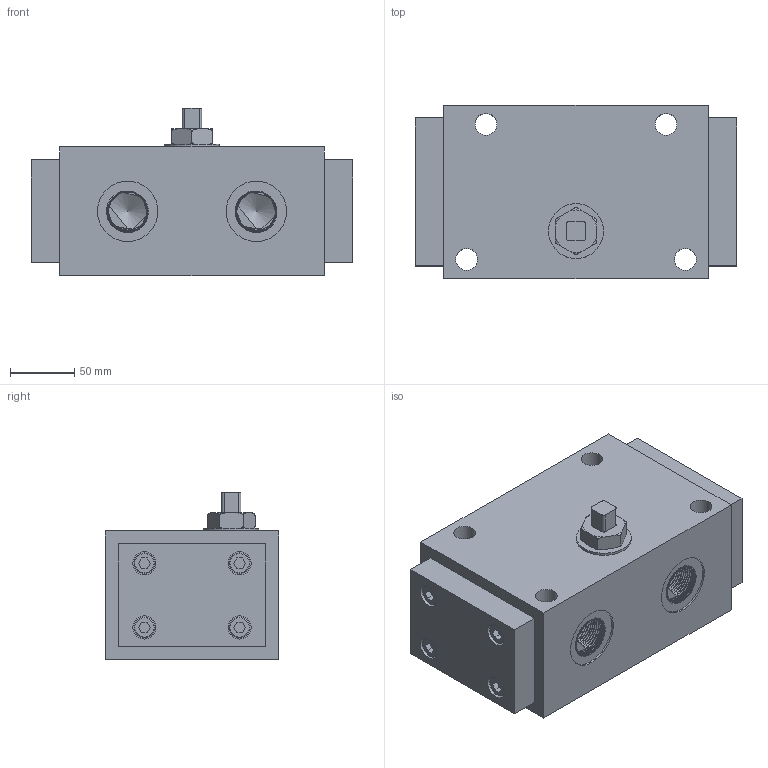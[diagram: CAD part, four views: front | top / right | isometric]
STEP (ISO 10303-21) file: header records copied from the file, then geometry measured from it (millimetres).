
FILE_DESCRIPTION(/* description */ (''),/* implementation_level */ '2;1');
FILE_NAME(/* name */ '25.stp',/* time_stamp */ '2023-05-01T20:42:57+08:00',/* author */ (''),/* organization */ (''),/* preprocessor_version */ 'ST-DEVELOPER v16.7',/* originating_system */ 'SIEMENS PLM Software NX 12.0',/* authorisation */ '');
FILE_SCHEMA (('AUTOMOTIVE_DESIGN { 1 0 10303 214 3 1 1 1 }'));
Length unit declared in the file: millimetre
Products named in the file (1): 25
Bounding box: 250 x 135 x 130 mm (x, y, z)
Volume: 2964190.9 mm3; surface area: 260223.6 mm2
Topology: 14 solids, 14 shells, 282 faces, 697 edges, 462 vertices
Faces by surface type: plane 160, cylinder 74, torus 20, cone 19, bspline 9
Full cylindrical faces by diameter (mm): 8.5 x8, 10 x8, 11 x8, 16 x8, 17 x4, 18 x8, 42.782 x1, 47 x2, 56 x1
Entity records: 27997 total; most frequent: CARTESIAN_POINT 21692, DIRECTION 1245, ORIENTED_EDGE 1136, EDGE_CURVE 568, AXIS2_PLACEMENT_3D 463, VERTEX_POINT 427, EDGE_LOOP 424, LINE 319
